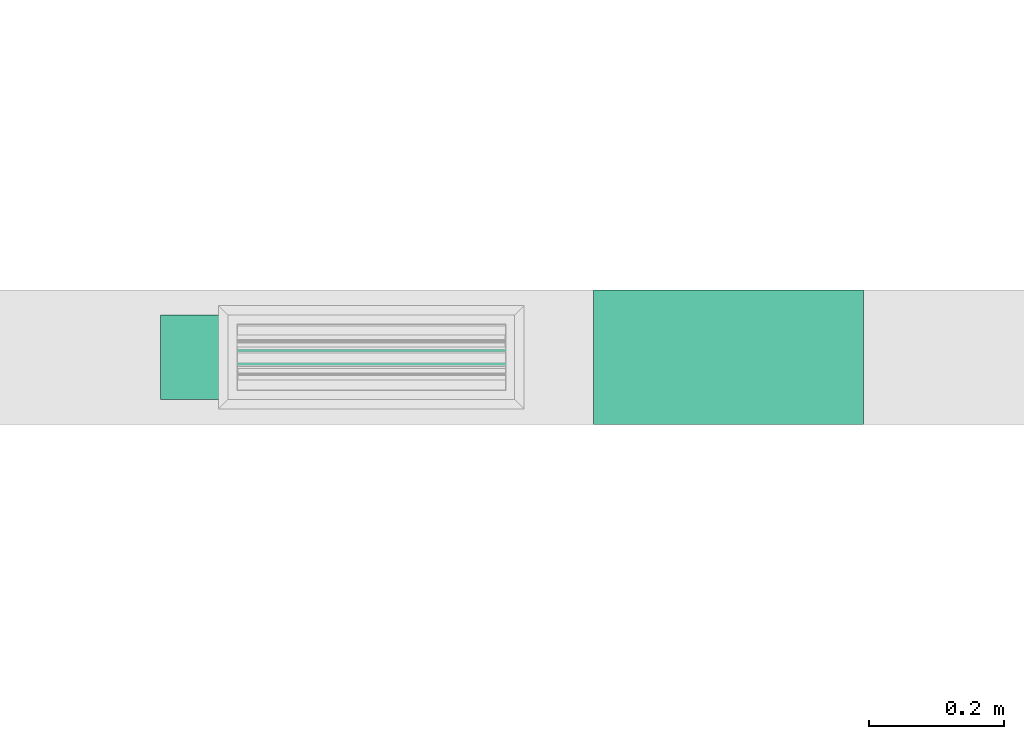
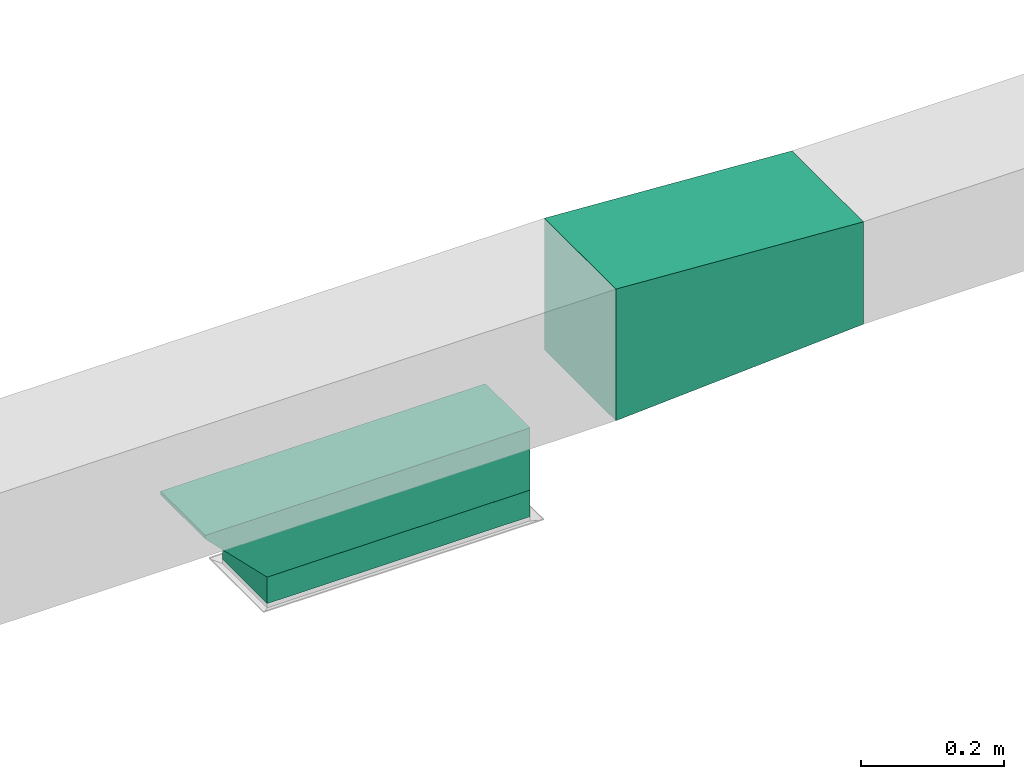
# One storey, part 10 of 22: 2 flow fittings, 1 flow segment.
"""IFC2X3 building model written with IfcOpenShell, lengths in millimetres."""

from ifc_helpers import new_model, entity, si_unit, converted_unit, derived_unit, direction, frame, frame_2d, origin, place, context, subcontext, project, spatial, polyline, rectangle, outline, extrude, source, transform, mapped, material, type_object, type_shapes, element, save


model = new_model("IFC2X3")

# Units and contexts
model_context = context("Model", 3, precision=0.01, world=origin(), true_north=direction((6.123233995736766e-17, 1.0)))
body_context = subcontext(model_context, "Body", "Model", "MODEL_VIEW")
ifc_project = project(units=[si_unit("LENGTHUNIT", "METRE", prefix="MILLI"), converted_unit("PLANEANGLEUNIT", "DEGREE", entity("IfcPlaneAngleMeasure", 0.017453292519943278), si_unit("PLANEANGLEUNIT", "RADIAN"), dimensions=[0, 0, 0, 0, 0, 0, 0]), si_unit("AREAUNIT", "SQUARE_METRE"), derived_unit("THERMALTRANSMITTANCEUNIT", [(si_unit("MASSUNIT", "GRAM", prefix="KILO"), 1), (si_unit("THERMODYNAMICTEMPERATUREUNIT", "KELVIN"), -1), (si_unit("TIMEUNIT", "SECOND"), -3)])], contexts=[model_context])

# Site, building, storey
site_placement = place(None, origin())
site = spatial("IfcSite", under=ifc_project, at=site_placement, Name="Default", CompositionType="ELEMENT")
building_placement = place(site_placement, origin())
building = spatial("IfcBuilding", under=site, at=building_placement, Name="Praça Pedro II, 1301 - Centro (Sul), Teresina - PI, 64001-100", CompositionType="ELEMENT")
storey_placement = place(building_placement, frame((0.0, 0.0, 320.0)))
storey = spatial("IfcBuildingStorey", under=building, at=storey_placement, Name="TÉRREO +0.32m", CompositionType="ELEMENT", Elevation=319.99999999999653)

# Flow segment
duct_segment_type = type_object("IfcDuctSegmentType", Name="Duto retangular:Raios cotovelos / torneiras", PredefinedType="NOTDEFINED")
flow_segment_placement = place(storey_placement, origin())
element("IfcFlowSegment", 1, at=flow_segment_placement, inside=storey, type_object=duct_segment_type, Name="Duto retangular:Raios cotovelos / torneiras", ObjectType="Duto retangular:Raios cotovelos / torneiras", context=body_context, shape_type="SweptSolid", body=[
    extrude(rectangle(XDim=125.00000000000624, YDim=424.9999999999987, at=frame_2d((-8.661515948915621e-12, 0.0), x_axis=(1.0, 0.0))), frame((23529.70209825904, -52054.62602949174, 1842.0), z_axis=(0.0, 0.0, 1.0), x_axis=(0.0, 1.0, 0.0)), (0.0, 0.0, 1.0), 45.500000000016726),
])

# Flow fittings
ifc_material = material(Name="<Unnamed>")
duct_fitting_type_1 = type_object("IfcDuctFittingType", Name="M_Rectangular Transition - L:400 mm (L)", PredefinedType="NOTDEFINED", material=ifc_material)
shared_shape_1 = source(origin(), body_context, "Body", "SweptSolid", [
    extrude(outline(polyline([(-194.1524156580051, -99.80525784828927), (206.6280728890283, -99.80525784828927), (192.59295850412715, 124.75657231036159), (-205.06861573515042, 74.85394338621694), (-194.1524156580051, -99.80525784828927)])), frame((200.0, -100.0, 0.0), z_axis=(0.0, 1.0, 0.0), x_axis=(0.9980525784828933, 0.0, 0.0623782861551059)), (0.0, 0.0, 1.0), 199.99999999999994),
])
type_shapes(duct_fitting_type_1, [shared_shape_1])
flow_fitting_1_placement = place(storey_placement, frame((24259.13369082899, -52054.62602949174, 2100.0), z_axis=(0.0, 0.0, 1.0), x_axis=(-1.0, 0.0, 0.0)))
element("IfcFlowFitting", 2, at=flow_fitting_1_placement, inside=storey, type_object=duct_fitting_type_1, material=ifc_material, Name="M_Rectangular Transition - L:400 mm (L)", ObjectType="M_Rectangular Transition - L:400 mm (L)", context=body_context, shape_type="MappedRepresentation", body=[
    mapped(shared_shape_1, transform((0.0, 0.0, 0.0), scale=1.0)),
])
duct_fitting_type_2 = type_object("IfcDuctFittingType", Name="M_Rectangular Tap - Beveled:Standard", PredefinedType="NOTDEFINED", material=ifc_material)
shared_shape_2 = source(origin(), body_context, "Body", "SweptSolid", [
    extrude(outline(polyline([(-295.0, -62.438400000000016), (130.0, -62.438400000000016), (230.0, 37.56159999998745), (230.0, 43.657600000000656), (-295.0, 43.65759999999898), (-295.0, -62.438400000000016)])), frame((37.561600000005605, 82.50000000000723, -62.49999999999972), z_axis=(0.0, 0.0, 1.0), x_axis=(0.0, 1.0, 0.0)), (0.0, 0.0, 1.0), 124.99999999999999),
])
type_shapes(duct_fitting_type_2, [shared_shape_2])
flow_fitting_2_placement = place(storey_placement, frame((23529.702098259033, -52054.626029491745, 1987.5000000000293), z_axis=(0.0, 1.0, 0.0), x_axis=(0.0, 0.0, -1.0)))
element("IfcFlowFitting", 3, at=flow_fitting_2_placement, inside=storey, type_object=duct_fitting_type_2, material=ifc_material, Name="M_Rectangular Tap - Beveled:Standard", ObjectType="M_Rectangular Tap - Beveled:Standard", context=body_context, shape_type="MappedRepresentation", body=[
    mapped(shared_shape_2, transform((0.0, 0.0, 0.0), scale=1.0)),
])

save(model, "model.ifc")
